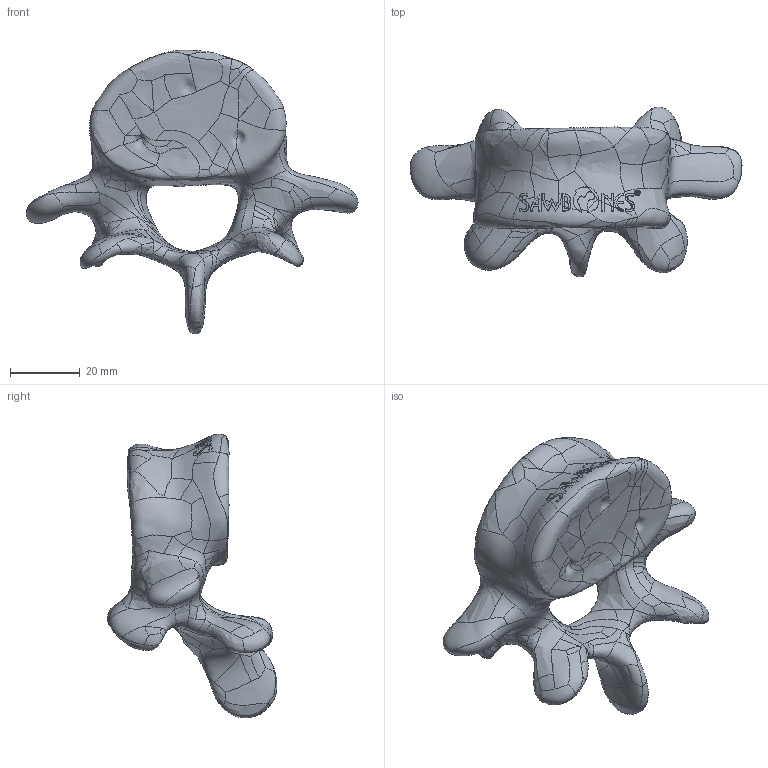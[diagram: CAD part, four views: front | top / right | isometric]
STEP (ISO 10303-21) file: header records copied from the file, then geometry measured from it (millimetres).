
FILE_DESCRIPTION (( 'STEP AP203' ), '1' );
FILE_NAME ('1375-40-5.STEP', '2025-06-18T19:10:40', ( '' ), ( '' ), 'SwSTEP 2.0', 'SolidWorks 2024', '' );
FILE_SCHEMA (( 'CONFIG_CONTROL_DESIGN' ));
Products named in the file (1): 1375-40-5
Bounding box: 95.28 x 48.73 x 81.33 mm (x, y, z)
Volume: 64719.5 mm3; surface area: 14335 mm2
Topology: 1 solids, 1 shells, 579 faces, 1503 edges, 928 vertices
Faces by surface type: bspline 578, plane 1
Entity records: 982897 total; most frequent: CARTESIAN_POINT 973546, ORIENTED_EDGE 3006, B_SPLINE_CURVE_WITH_KNOTS 1503, EDGE_CURVE 1503, VERTEX_POINT 928, EDGE_LOOP 583, ADVANCED_FACE 579, FACE_OUTER_BOUND 579
